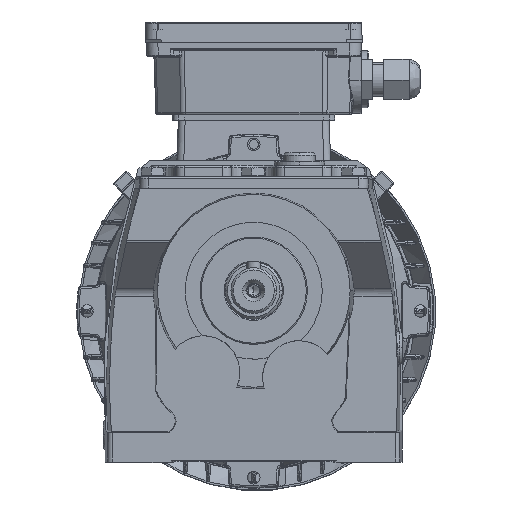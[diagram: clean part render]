
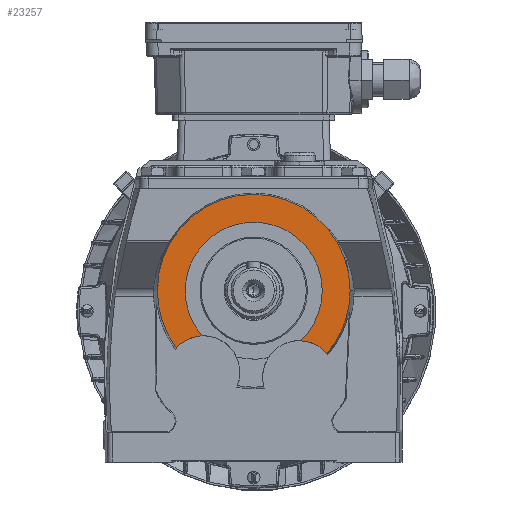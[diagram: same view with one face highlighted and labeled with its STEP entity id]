
A CAD part, top view. The second image highlights one B-rep face of the part: STEP entity #23257.
In plain terms, the highlighted planar face has unit normal (0, 0, 1).
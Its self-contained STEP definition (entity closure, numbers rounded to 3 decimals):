
#23257 = ADVANCED_FACE ( 'NONE', ( #42298 ), #111370, .T. ) ;
#34310 = EDGE_LOOP ( 'NONE', ( #64954, #65101, #65126, #65057, #64968, #65086, #65114, #65122 ) ) ;
#42298 = FACE_OUTER_BOUND ( 'NONE', #34310, .T. ) ;
#64954 = ORIENTED_EDGE ( 'NONE', *, *, #90078, .F. ) ;
#64968 = ORIENTED_EDGE ( 'NONE', *, *, #87788, .F. ) ;
#65057 = ORIENTED_EDGE ( 'NONE', *, *, #87417, .F. ) ;
#65086 = ORIENTED_EDGE ( 'NONE', *, *, #90272, .T. ) ;
#65101 = ORIENTED_EDGE ( 'NONE', *, *, #87644, .T. ) ;
#65114 = ORIENTED_EDGE ( 'NONE', *, *, #88221, .F. ) ;
#65122 = ORIENTED_EDGE ( 'NONE', *, *, #87892, .F. ) ;
#65126 = ORIENTED_EDGE ( 'NONE', *, *, #90043, .F. ) ;
#87417 = EDGE_CURVE ( 'NONE', #148437, #148284, #180246, .T. ) ;
#87644 = EDGE_CURVE ( 'NONE', #148358, #148353, #180068, .T. ) ;
#87788 = EDGE_CURVE ( 'NONE', #148243, #148437, #162685, .T. ) ;
#87892 = EDGE_CURVE ( 'NONE', #145815, #145754, #162573, .T. ) ;
#88221 = EDGE_CURVE ( 'NONE', #145754, #145571, #163073, .T. ) ;
#90043 = EDGE_CURVE ( 'NONE', #148284, #148353, #174242, .T. ) ;
#90078 = EDGE_CURVE ( 'NONE', #148358, #145815, #174288, .T. ) ;
#90272 = EDGE_CURVE ( 'NONE', #148243, #145571, #174578, .T. ) ;
#111370 = PLANE ( 'NONE',  #173809 ) ;
#111371 = CARTESIAN_POINT ( 'NONE',  ( 0., 0., 118. ) ) ;
#111374 = DIRECTION ( 'NONE',  ( 0., 0., 1. ) ) ;
#111376 = DIRECTION ( 'NONE',  ( 1., 0., 0. ) ) ;
#143521 = AXIS2_PLACEMENT_3D ( 'NONE', #159982, #159875, #159857 ) ;
#143580 = AXIS2_PLACEMENT_3D ( 'NONE', #159061, #159080, #159162 ) ;
#143656 = AXIS2_PLACEMENT_3D ( 'NONE', #160498, #160493, #160562 ) ;
#143680 = AXIS2_PLACEMENT_3D ( 'NONE', #160184, #160230, #160203 ) ;
#143794 = AXIS2_PLACEMENT_3D ( 'NONE', #170268, #170205, #170288 ) ;
#144158 = AXIS2_PLACEMENT_3D ( 'NONE', #176084, #176087, #176104 ) ;
#144223 = AXIS2_PLACEMENT_3D ( 'NONE', #176135, #176172, #176136 ) ;
#144227 = AXIS2_PLACEMENT_3D ( 'NONE', #176688, #176699, #176641 ) ;
#145571 = VERTEX_POINT ( 'NONE', #160819 ) ;
#145754 = VERTEX_POINT ( 'NONE', #160865 ) ;
#145815 = VERTEX_POINT ( 'NONE', #160809 ) ;
#148243 = VERTEX_POINT ( 'NONE', #164333 ) ;
#148284 = VERTEX_POINT ( 'NONE', #164329 ) ;
#148353 = VERTEX_POINT ( 'NONE', #164273 ) ;
#148358 = VERTEX_POINT ( 'NONE', #164352 ) ;
#148437 = VERTEX_POINT ( 'NONE', #164432 ) ;
#159061 = CARTESIAN_POINT ( 'NONE',  ( 0., 0., 118. ) ) ;
#159080 = DIRECTION ( 'NONE',  ( 0., 0., -1. ) ) ;
#159162 = DIRECTION ( 'NONE',  ( -1., 0., 0. ) ) ;
#159857 = DIRECTION ( 'NONE',  ( -1., 0., 0. ) ) ;
#159875 = DIRECTION ( 'NONE',  ( 0., 0., -1. ) ) ;
#159982 = CARTESIAN_POINT ( 'NONE',  ( 19.88, -37.88, 118. ) ) ;
#160184 = CARTESIAN_POINT ( 'NONE',  ( 0., 0., 118. ) ) ;
#160203 = DIRECTION ( 'NONE',  ( -1., 0., 0. ) ) ;
#160230 = DIRECTION ( 'NONE',  ( 0., 0., -1. ) ) ;
#160493 = DIRECTION ( 'NONE',  ( 0., 0., 1. ) ) ;
#160498 = CARTESIAN_POINT ( 'NONE',  ( 0., 0., 118. ) ) ;
#160562 = DIRECTION ( 'NONE',  ( -1., 0., 0. ) ) ;
#160809 = CARTESIAN_POINT ( 'NONE',  ( 30., 0., 118. ) ) ;
#160819 = CARTESIAN_POINT ( 'NONE',  ( -22.601, -19.728, 118. ) ) ;
#160865 = CARTESIAN_POINT ( 'NONE',  ( -30., 0., 118. ) ) ;
#162573 = CIRCLE ( 'NONE', #143656, 30. ) ;
#162685 = CIRCLE ( 'NONE', #143680, 42.212 ) ;
#163073 = CIRCLE ( 'NONE', #143794, 30. ) ;
#164273 = CARTESIAN_POINT ( 'NONE',  ( 32.04, -27.482, 118. ) ) ;
#164329 = CARTESIAN_POINT ( 'NONE',  ( 42.212, 0., 118. ) ) ;
#164333 = CARTESIAN_POINT ( 'NONE',  ( -33.992, -25.027, 118. ) ) ;
#164352 = CARTESIAN_POINT ( 'NONE',  ( 20.511, -21.892, 118. ) ) ;
#164432 = CARTESIAN_POINT ( 'NONE',  ( -42.212, 0., 118. ) ) ;
#170205 = DIRECTION ( 'NONE',  ( 0., 0., 1. ) ) ;
#170268 = CARTESIAN_POINT ( 'NONE',  ( 0., 0., 118. ) ) ;
#170288 = DIRECTION ( 'NONE',  ( -1., 0., 0. ) ) ;
#173809 = AXIS2_PLACEMENT_3D ( 'NONE', #111371, #111374, #111376 ) ;
#174242 = CIRCLE ( 'NONE', #144158, 42.212 ) ;
#174288 = CIRCLE ( 'NONE', #144223, 30. ) ;
#174578 = CIRCLE ( 'NONE', #144227, 16. ) ;
#176084 = CARTESIAN_POINT ( 'NONE',  ( 0., 0., 118. ) ) ;
#176087 = DIRECTION ( 'NONE',  ( 0., 0., -1. ) ) ;
#176104 = DIRECTION ( 'NONE',  ( -1., 0., 0. ) ) ;
#176135 = CARTESIAN_POINT ( 'NONE',  ( 0., 0., 118. ) ) ;
#176136 = DIRECTION ( 'NONE',  ( -1., 0., 0. ) ) ;
#176172 = DIRECTION ( 'NONE',  ( 0., 0., 1. ) ) ;
#176641 = DIRECTION ( 'NONE',  ( -1., 0., 0. ) ) ;
#176688 = CARTESIAN_POINT ( 'NONE',  ( -22.09, -35.72, 118. ) ) ;
#176699 = DIRECTION ( 'NONE',  ( 0., 0., -1. ) ) ;
#180068 = CIRCLE ( 'NONE', #143521, 16. ) ;
#180246 = CIRCLE ( 'NONE', #143580, 42.212 ) ;
